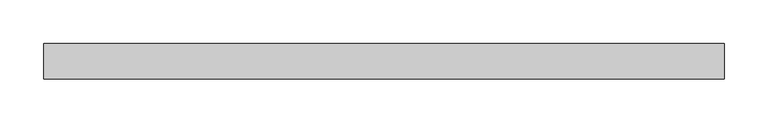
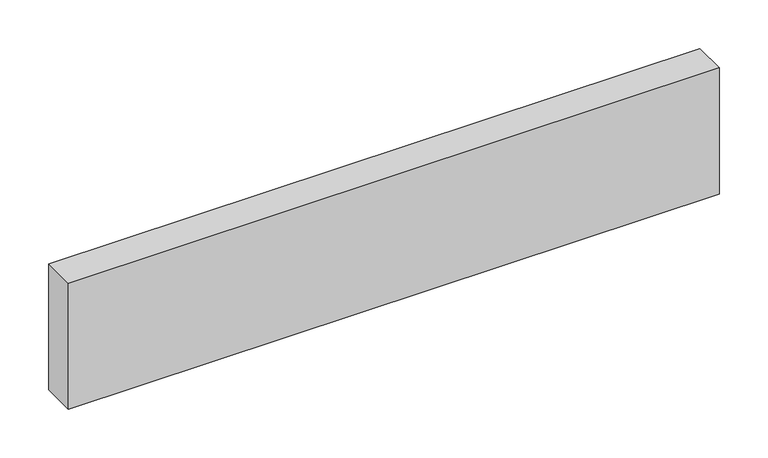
"""IFC4 building model written with IfcOpenShell, lengths in millimetres: plate geometry, Panneau système vide : Epaiss. 4cm."""

from ifc_helpers import new_model, si_unit, origin, origin_with_axes, place, context, project, spatial, polyline, outline, extrude, source, transform, mapped, element, save


def plate_dd676fe4(model_context):
    return source(origin(), model_context, "Body", "SweptSolid", [
        extrude(outline(polyline([(386.6244143, -20.0), (-386.6244143, -20.0), (-386.6244143, 20.0), (386.6244143, 20.0), (386.6244143, -20.0)])), origin_with_axes(), (0.0, 0.0, 1.0), 158.3333333),
    ])


if __name__ == "__main__":
    model = new_model("IFC4")
    model_context = context("Model", 3, world=origin())
    ifc_project = project(units=[si_unit("LENGTHUNIT", "METRE", prefix="MILLI")], contexts=[model_context])
    site = spatial("IfcSite", under=ifc_project)
    building = spatial("IfcBuilding", under=site)
    placement = place(None, origin())
    plate_shape = plate_dd676fe4(model_context)
    element("IfcPlate", 1, ObjectType="Panneau système vide : Epaiss. 4cm", at=placement, inside=building, context=model_context, shape_type="MappedRepresentation", body=[
        mapped(plate_shape, transform((0.0, 0.0, 0.0), x_axis=(1.0, 0.0, 0.0), y_axis=(0.0, 1.0, 0.0), z_axis=(0.0, 0.0, 1.0))),
    ])
    save(model, "model.ifc")
